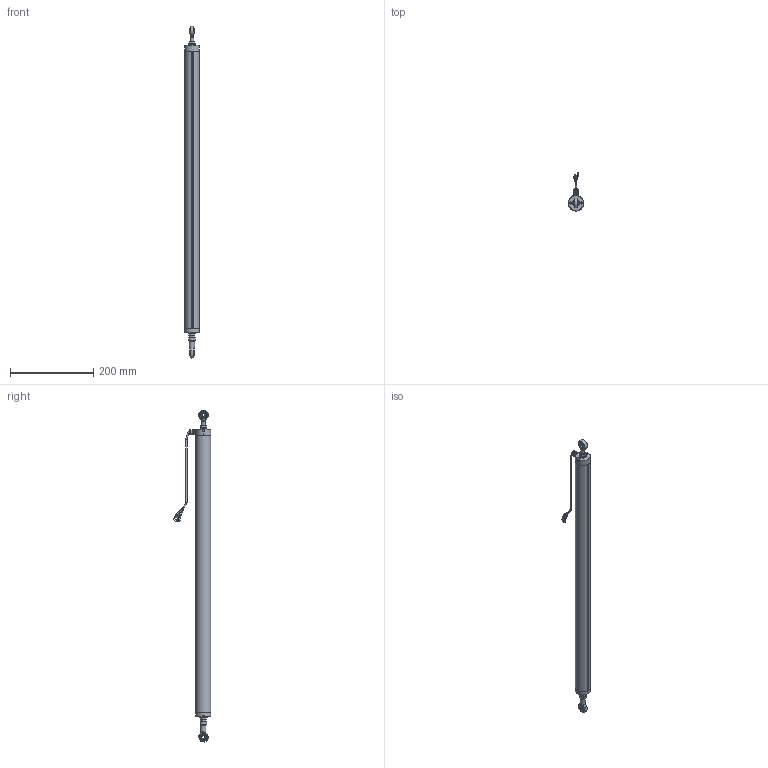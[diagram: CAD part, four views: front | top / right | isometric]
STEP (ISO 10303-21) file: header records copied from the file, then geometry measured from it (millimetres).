
FILE_DESCRIPTION(/* description */ (''),/* implementation_level */ '2;1');
FILE_NAME(/* name */ 'C:\Users\Justin\Documents\CAD\The Sensor Connection\LPPS\LPPS-36B Series\3D\LPPS-36B-600\LPPS 36B-600 Assemly.stp',/* time_stamp */ '2020-09-21T09:48:12-04:00',/* author */ ('Justin'),/* organization */ (''),/* preprocessor_version */ 'ST-DEVELOPER v18.1',/* originating_system */ 'Autodesk Inventor 2021',/* authorisation */ '');
FILE_SCHEMA (('AUTOMOTIVE_DESIGN { 1 0 10303 214 3 1 1 }'));
Length unit declared in the file: inch
Products named in the file (3): LPPS 36B-600 Assemly; LPPS 36B-600 Shaft_Shrinkwrap; LPPS 36B-600_Shrinkwrap
Assembly tree (2 placements, depth 2):
  LPPS 36B-600 Assemly
    LPPS 36B-600 Shaft_Shrinkwrap
    LPPS 36B-600_Shrinkwrap
Bounding box: 36.05 x 90.87 x 799.86 mm (x, y, z)
Volume: 236120.5 mm3; surface area: 199717.4 mm2
Topology: 27 solids, 27 shells, 1058 faces, 2601 edges, 1671 vertices
Faces by surface type: plane 468, cylinder 257, bspline 195, torus 73, cone 60, sphere 5
Full cylindrical faces by diameter (mm): 1.236 x3, 2.5 x2, 3 x6, 3.175 x3, 3.5 x5, 3.708 x1, 5 x3, 5.5 x1, 6 x2, 6.647 x1, 7 x3, 8 x11, 8.1 x1, 8.4 x1, 9 x1, 10 x1, 11 x1, 12.5 x1, 15 x4, 15.8 x1, 16 x1, 18.5 x3, 36 x1
Entity records: 37558 total; most frequent: CARTESIAN_POINT 12066, ORIENTED_EDGE 5202, DIRECTION 4715, EDGE_CURVE 2601, AXIS2_PLACEMENT_3D 1782, VERTEX_POINT 1671, EDGE_LOOP 1175, LINE 1151
